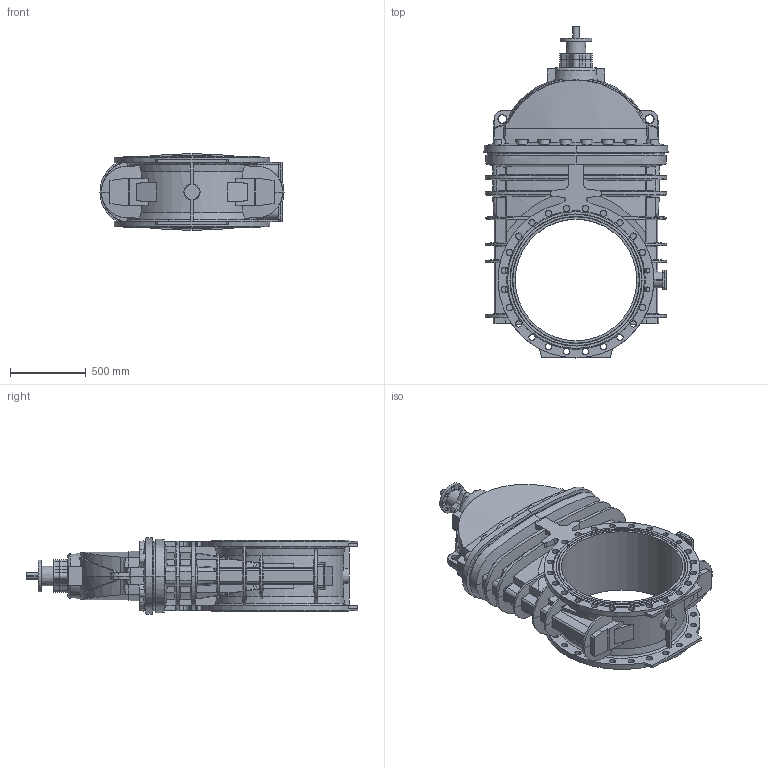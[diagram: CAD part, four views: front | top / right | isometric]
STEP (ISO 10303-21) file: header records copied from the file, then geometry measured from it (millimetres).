
FILE_DESCRIPTION (( 'STEP AP203' ), '1' );
FILE_NAME ('O_06_30_DN800_X1XXX_AA0.step', '2019-11-13T10:34:56', ( 'Windows User' ), ( 'AVK' ), 'SwSTEP 2.0', 'SolidWorks 2012', '' );
FILE_SCHEMA (( 'CONFIG_CONTROL_DESIGN' ));
Length unit declared in the file: millimetre
Products named in the file (1): O_06_30_DN800_X1XXX_AA0
Bounding box: 1212 x 2184.5 x 506 mm (x, y, z)
Volume: 381382798.1 mm3; surface area: 8927300.3 mm2
Topology: 1 solids, 1 shells, 856 faces, 2589 edges, 1699 vertices
Faces by surface type: plane 401, cylinder 232, bspline 108, cone 100, torus 15
Full cylindrical faces by diameter (mm): 22 x4, 32 x4, 33 x4, 40 x1, 41 x44, 210 x1, 800 x1
Entity records: 42498 total; most frequent: CARTESIAN_POINT 21771, ORIENTED_EDGE 4898, DIRECTION 3432, EDGE_CURVE 2449, VERTEX_POINT 1640, AXIS2_PLACEMENT_3D 1267, EDGE_LOOP 1023, FACE_OUTER_BOUND 920
